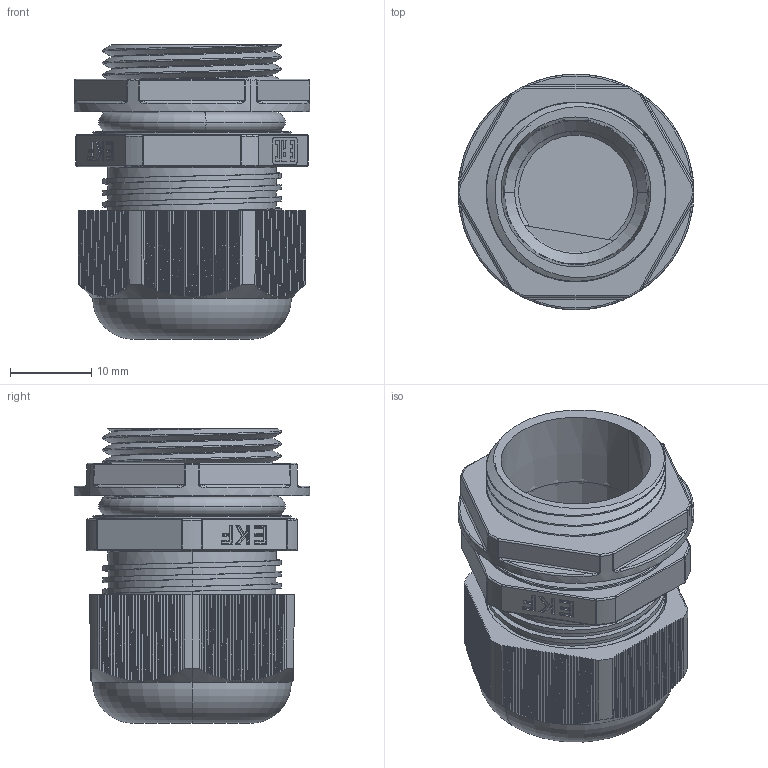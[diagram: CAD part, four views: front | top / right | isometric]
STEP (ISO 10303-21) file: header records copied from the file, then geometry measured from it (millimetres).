
FILE_DESCRIPTION (( 'STEP AP203' ), '1' );
FILE_NAME ('plc-pg-19-00.00.000ÑÁ Ñàëüíèê PG19 #cable gland PG19#.STEP', '2024-02-27T07:56:55', ( '' ), ( '' ), 'SwSTEP 2.0', 'SolidWorks 2021', '' );
FILE_SCHEMA (( 'CONFIG_CONTROL_DESIGN' ));
Length unit declared in the file: millimetre
Products named in the file (6): plc-pg-19-00.00.003 Ãàéêà ïðèæèìíàÿ (PG19-Ì22) #clamping nut (PG19-M22)#; plc-pg-19-00.00.001 昢膼瘔 (PG19) #base (PG19)#; plc-pg-19-00.00.000ÑÁ Ñàëüíèê PG19 #cable gland PG19#; plc-pg-19-00.00.005 ﾌ瑙趺 (PG19) #sealing ring (PG19)#; plc-pg-19-00.00.004 Óïëîòíèòåëü (PG19) #sealant (PG19)#_¤®à ¡®âª ; plc-pg-19-00.00.002 Ãàéêà öàíãîâàÿ (PG19) #collet nut (PG19)#
Assembly tree (5 placements, depth 2):
  plc-pg-19-00.00.000ÑÁ Ñàëüíèê PG19 #cable gland PG19#
    plc-pg-19-00.00.001 昢膼瘔 (PG19) #base (PG19)#
    plc-pg-19-00.00.002 Ãàéêà öàíãîâàÿ (PG19) #collet nut (PG19)#
    plc-pg-19-00.00.003 Ãàéêà ïðèæèìíàÿ (PG19-Ì22) #clamping nut (PG19-M22)#
    plc-pg-19-00.00.004 Óïëîòíèòåëü (PG19) #sealant (PG19)#_¤®à ¡®âª 
    plc-pg-19-00.00.005 ﾌ瑙趺 (PG19) #sealing ring (PG19)#
Bounding box: 29.07 x 29.07 x 36.26 mm (x, y, z)
Volume: 8369.7 mm3; surface area: 13141.1 mm2
Topology: 5 solids, 8 shells, 1331 faces, 3617 edges, 2292 vertices
Faces by surface type: plane 731, cylinder 202, bspline 159, cone 136, torus 90, sphere 13
Entity records: 60427 total; most frequent: CARTESIAN_POINT 29598, ORIENTED_EDGE 7186, DIRECTION 5091, EDGE_CURVE 3593, VERTEX_POINT 2292, AXIS2_PLACEMENT_3D 1711, VECTOR 1669, LINE 1669
